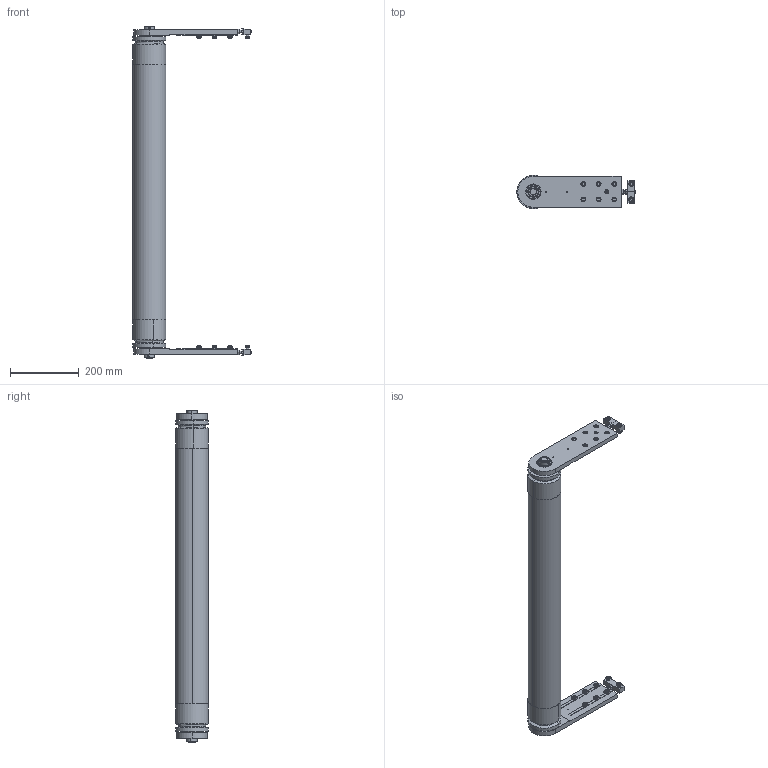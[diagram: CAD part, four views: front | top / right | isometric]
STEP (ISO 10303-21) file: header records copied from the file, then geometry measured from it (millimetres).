
FILE_DESCRIPTION (( 'STEP AP203' ), '1' );
FILE_NAME ('084.095.KIZ.900.STEP', '2019-07-30T08:28:59', ( '' ), ( '' ), 'SwSTEP 2.0', 'SolidWorks 2018', '' );
FILE_SCHEMA (( 'CONFIG_CONTROL_DESIGN' ));
Length unit declared in the file: millimetre
Products named in the file (11): 084.302.000 DADI ALUSIC 13x13-1_084.302.004; 084.812.024.900; DADO ESAGONALE AUTOBLOCCANTE RIBASSATO M30-UNI 7474; 084.803.003; 084.802.019_084.802.019; 084.095.KIZ.900; 084.808.002_084.808.002; 449.014.106; CHIAVETTE_A 8x7x50 UNI 6604-69; 084.812.025.900_Default<A macchina>; 084.301.000 VITI ALUSIC_084.301.003
Assembly tree (45 placements, depth 2):
  084.095.KIZ.900
    449.014.106  x2
    084.803.003  x2
    084.812.024.900
    084.812.025.900_Default<A macchina>
    084.808.002_084.808.002  x2
    084.802.019_084.802.019  x2
    DADO ESAGONALE AUTOBLOCCANTE RIBASSATO M30-UNI 7474  x2
    CHIAVETTE_A 8x7x50 UNI 6604-69
    084.301.000 VITI ALUSIC_084.301.003  x16
    084.302.000 DADI ALUSIC 13x13-1_084.302.004  x16
Bounding box: 344 x 96 x 965 mm (x, y, z)
Volume: 3775724.1 mm3; surface area: 1126876 mm2
Topology: 51 solids, 53 shells, 1242 faces, 3097 edges, 2007 vertices
Faces by surface type: plane 478, cylinder 380, torus 148, bspline 120, cone 108, sphere 8
Entity records: 14408 total; most frequent: CARTESIAN_POINT 3159, DIRECTION 1962, ORIENTED_EDGE 1868, EDGE_CURVE 934, AXIS2_PLACEMENT_3D 765, VERTEX_POINT 608, EDGE_LOOP 432, VECTOR 432
